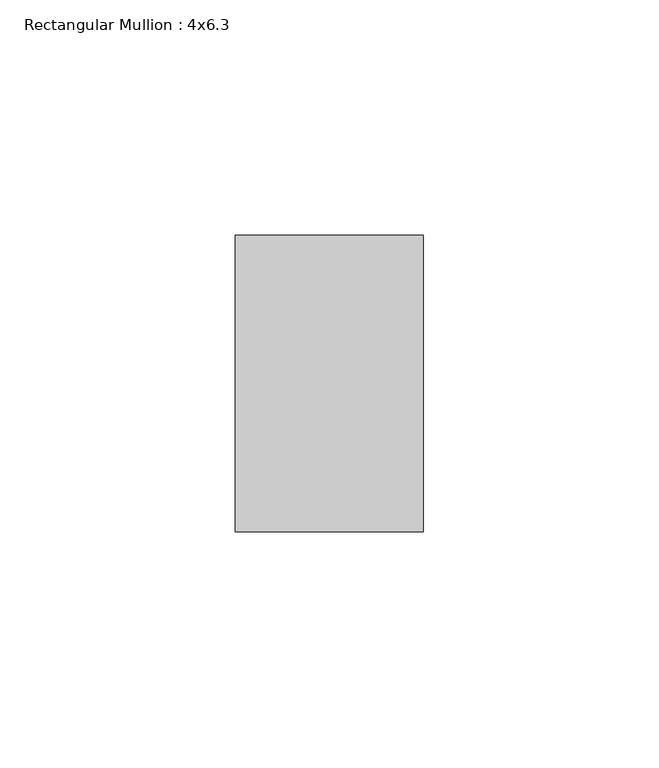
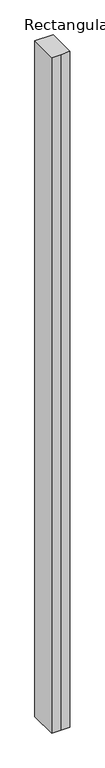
"""IFC4 building model written with IfcOpenShell, lengths in millimetres: member geometry, Rectangular Mullion : 4x6.3."""

from ifc_helpers import new_model, si_unit, frame, origin, place, context, project, spatial, polyline, outline, extrude, source, transform, mapped, element, save


def rectangular_mullion_4x6_3_f1ab8c5f(model_context):
    return source(origin(), model_context, "Body", "SweptSolid", [
        extrude(outline(polyline([(-20.0, 20.0), (-20.0, 83.0), (20.0, 83.0), (20.0, 20.0), (0.0, 20.0), (-20.0, 20.0)])), frame((0.0, 0.0, -1555.8375901), z_axis=(0.0, 0.0, 1.0), x_axis=(1.0, 0.0, 0.0)), (0.0, 0.0, 1.0), 1555.8375901),
    ])


if __name__ == "__main__":
    model = new_model("IFC4")
    model_context = context("Model", 3, world=origin())
    ifc_project = project(units=[si_unit("LENGTHUNIT", "METRE", prefix="MILLI")], contexts=[model_context])
    site = spatial("IfcSite", under=ifc_project)
    building = spatial("IfcBuilding", under=site)
    placement = place(None, origin())
    rectangular_mullion_4x6_3_shape = rectangular_mullion_4x6_3_f1ab8c5f(model_context)
    element("IfcMember", 1, ObjectType="Rectangular Mullion : 4x6.3", at=placement, inside=building, context=model_context, shape_type="MappedRepresentation", body=[
        mapped(rectangular_mullion_4x6_3_shape, transform((0.0, 0.0, 0.0), x_axis=(1.0, 0.0, 0.0), y_axis=(0.0, 1.0, 0.0), z_axis=(0.0, 0.0, 1.0))),
    ])
    save(model, "model.ifc")
